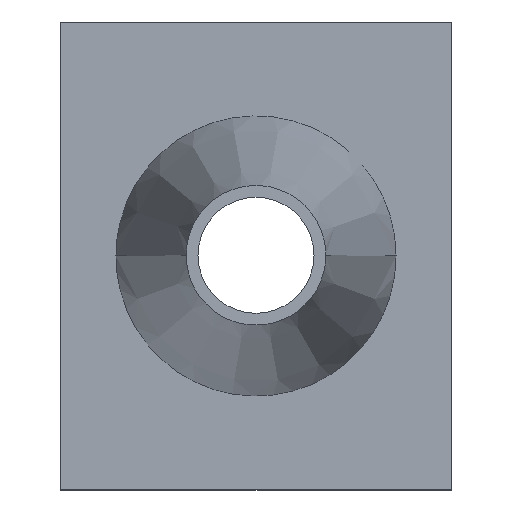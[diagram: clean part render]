
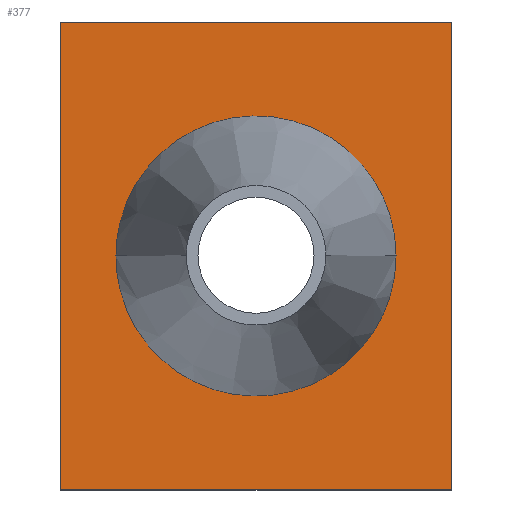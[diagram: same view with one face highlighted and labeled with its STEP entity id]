
A CAD part, top view. The second image highlights one B-rep face of the part: STEP entity #377.
In plain terms, the highlighted planar face has unit normal (0, 0, 1).
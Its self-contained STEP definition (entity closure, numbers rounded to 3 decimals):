
#167=CARTESIAN_POINT('Vertex',(0.,121.,3.)) ;
#174=CARTESIAN_POINT('Vertex',(0.,0.,3.)) ;
#177=CARTESIAN_POINT('Line Origine',(0.,60.5,3.)) ;
#198=CARTESIAN_POINT('Vertex',(101.,121.,3.)) ;
#201=CARTESIAN_POINT('Line Origine',(50.5,121.,3.)) ;
#222=CARTESIAN_POINT('Vertex',(101.,0.,3.)) ;
#225=CARTESIAN_POINT('Line Origine',(101.,60.5,3.)) ;
#242=CARTESIAN_POINT('Line Origine',(50.5,0.,3.)) ;
#324=CARTESIAN_POINT('Axis2P3D Location',(0.,0.,3.)) ;
#336=CARTESIAN_POINT('Control Point',(86.708,60.5,3.)) ;
#337=CARTESIAN_POINT('Control Point',(86.708,66.411,3.)) ;
#338=CARTESIAN_POINT('Control Point',(85.502,72.322,3.)) ;
#339=CARTESIAN_POINT('Control Point',(83.087,77.905,3.)) ;
#340=CARTESIAN_POINT('Control Point',(76.125,87.761,3.)) ;
#341=CARTESIAN_POINT('Control Point',(65.858,94.101,3.)) ;
#342=CARTESIAN_POINT('Control Point',(60.135,96.166,3.)) ;
#343=CARTESIAN_POINT('Control Point',(48.185,97.843,3.)) ;
#344=CARTESIAN_POINT('Control Point',(36.533,94.703,3.)) ;
#345=CARTESIAN_POINT('Control Point',(31.109,91.947,3.)) ;
#346=CARTESIAN_POINT('Control Point',(22.417,84.961,3.)) ;
#347=CARTESIAN_POINT('Control Point',(16.897,75.343,3.)) ;
#348=CARTESIAN_POINT('Control Point',(15.16,70.529,3.)) ;
#349=CARTESIAN_POINT('Control Point',(14.292,65.514,3.)) ;
#350=CARTESIAN_POINT('Control Point',(14.292,60.5,3.)) ;
#351=CARTESIAN_POINT('Vertex',(86.708,60.5,3.)) ;
#353=CARTESIAN_POINT('Vertex',(14.292,60.5,3.)) ;
#357=CARTESIAN_POINT('Control Point',(86.708,60.5,3.)) ;
#358=CARTESIAN_POINT('Control Point',(86.708,54.589,3.)) ;
#359=CARTESIAN_POINT('Control Point',(85.502,48.678,3.)) ;
#360=CARTESIAN_POINT('Control Point',(83.087,43.095,3.)) ;
#361=CARTESIAN_POINT('Control Point',(76.125,33.239,3.)) ;
#362=CARTESIAN_POINT('Control Point',(65.858,26.899,3.)) ;
#363=CARTESIAN_POINT('Control Point',(60.135,24.834,3.)) ;
#364=CARTESIAN_POINT('Control Point',(48.185,23.157,3.)) ;
#365=CARTESIAN_POINT('Control Point',(36.533,26.297,3.)) ;
#366=CARTESIAN_POINT('Control Point',(31.109,29.053,3.)) ;
#367=CARTESIAN_POINT('Control Point',(22.417,36.039,3.)) ;
#368=CARTESIAN_POINT('Control Point',(16.897,45.657,3.)) ;
#369=CARTESIAN_POINT('Control Point',(15.16,50.471,3.)) ;
#370=CARTESIAN_POINT('Control Point',(14.292,55.486,3.)) ;
#371=CARTESIAN_POINT('Control Point',(14.292,60.5,3.)) ;
#178=DIRECTION('Vector Direction',(0.,1.,0.)) ;
#202=DIRECTION('Vector Direction',(-1.,0.,0.)) ;
#226=DIRECTION('Vector Direction',(0.,1.,0.)) ;
#243=DIRECTION('Vector Direction',(1.,0.,0.)) ;
#325=DIRECTION('Axis2P3D Direction',(0.,0.,1.)) ;
#326=DIRECTION('Axis2P3D XDirection',(1.,0.,0.)) ;
#327=AXIS2_PLACEMENT_3D('Plane Axis2P3D',#324,#325,#326) ;
#330=ORIENTED_EDGE('',*,*,#181,.F.) ;
#331=ORIENTED_EDGE('',*,*,#246,.T.) ;
#332=ORIENTED_EDGE('',*,*,#229,.T.) ;
#333=ORIENTED_EDGE('',*,*,#205,.T.) ;
#374=ORIENTED_EDGE('',*,*,#355,.F.) ;
#375=ORIENTED_EDGE('',*,*,#372,.T.) ;
#376=FACE_BOUND('',#373,.T.) ;
#179=VECTOR('Line Direction',#178,1.) ;
#203=VECTOR('Line Direction',#202,1.) ;
#227=VECTOR('Line Direction',#226,1.) ;
#244=VECTOR('Line Direction',#243,1.) ;
#377=ADVANCED_FACE('PartBody',(#334,#376),#328,.T.) ;
#335=B_SPLINE_CURVE_WITH_KNOTS('',5,(#336,#337,#338,#339,#340,#341,#342,#343,#344,#345,#346,#347,#348,#349,#350),.UNSPECIFIED.,.F.,.U.,(6,3,3,3,6),(0.,31.992,63.988,95.984,123.122),.UNSPECIFIED.) ;
#356=B_SPLINE_CURVE_WITH_KNOTS('',5,(#357,#358,#359,#360,#361,#362,#363,#364,#365,#366,#367,#368,#369,#370,#371),.UNSPECIFIED.,.F.,.U.,(6,3,3,3,6),(0.,31.992,63.988,95.984,123.122),.UNSPECIFIED.) ;
#181=EDGE_CURVE('',#175,#168,#180,.T.) ;
#205=EDGE_CURVE('',#199,#168,#204,.T.) ;
#229=EDGE_CURVE('',#223,#199,#228,.T.) ;
#246=EDGE_CURVE('',#175,#223,#245,.T.) ;
#355=EDGE_CURVE('',#352,#354,#335,.T.) ;
#372=EDGE_CURVE('',#352,#354,#356,.T.) ;
#329=EDGE_LOOP('',(#330,#331,#332,#333)) ;
#373=EDGE_LOOP('',(#374,#375)) ;
#334=FACE_OUTER_BOUND('',#329,.T.) ;
#180=LINE('Line',#177,#179) ;
#204=LINE('Line',#201,#203) ;
#228=LINE('Line',#225,#227) ;
#245=LINE('Line',#242,#244) ;
#328=PLANE('',#327) ;
#168=VERTEX_POINT('',#167) ;
#175=VERTEX_POINT('',#174) ;
#199=VERTEX_POINT('',#198) ;
#223=VERTEX_POINT('',#222) ;
#352=VERTEX_POINT('',#351) ;
#354=VERTEX_POINT('',#353) ;
